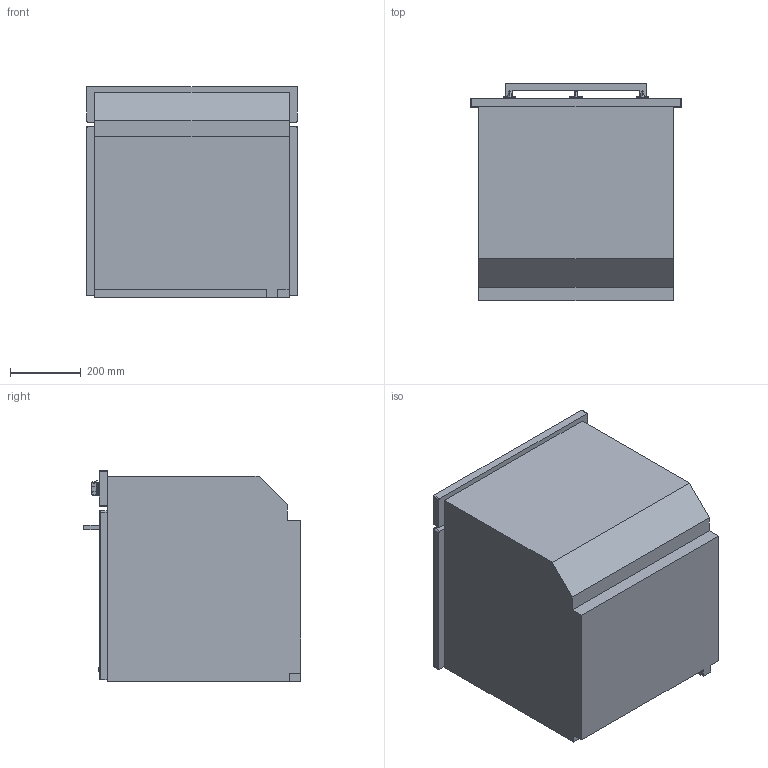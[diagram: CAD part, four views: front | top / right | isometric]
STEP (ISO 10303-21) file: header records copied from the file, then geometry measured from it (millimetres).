
FILE_DESCRIPTION(/* description */ (''),/* implementation_level */ '2;1');
FILE_NAME(/* name */ 'forno sf64m3vx.stp',/* time_stamp */ '2019-10-16T17:26:27+02:00',/* author */ (''),/* organization */ (''),/* preprocessor_version */ 'ST-DEVELOPER v16',/* originating_system */ 'SIEMENS PLM Software NX 11.0',/* authorisation */ '');
FILE_SCHEMA (('AUTOMOTIVE_DESIGN { 1 0 10303 214 3 1 1 1 }'));
Length unit declared in the file: millimetre
Products named in the file (1): Mart22208655h2m5
Bounding box: 597 x 615.5 x 596 mm (x, y, z)
Volume: 178042494.1 mm3; surface area: 3445689.2 mm2
Topology: 19 solids, 19 shells, 252 faces, 606 edges, 400 vertices
Faces by surface type: plane 149, cylinder 53, bspline 27, torus 12, extrusion 11
Full cylindrical faces by diameter (mm): 4.608 x6, 5 x4, 6 x2, 16 x3, 22 x3, 32 x3
Entity records: 8524 total; most frequent: CARTESIAN_POINT 2752, ORIENTED_EDGE 1156, DIRECTION 1078, EDGE_CURVE 578, VERTEX_POINT 394, AXIS2_PLACEMENT_3D 387, VECTOR 304, EDGE_LOOP 296
